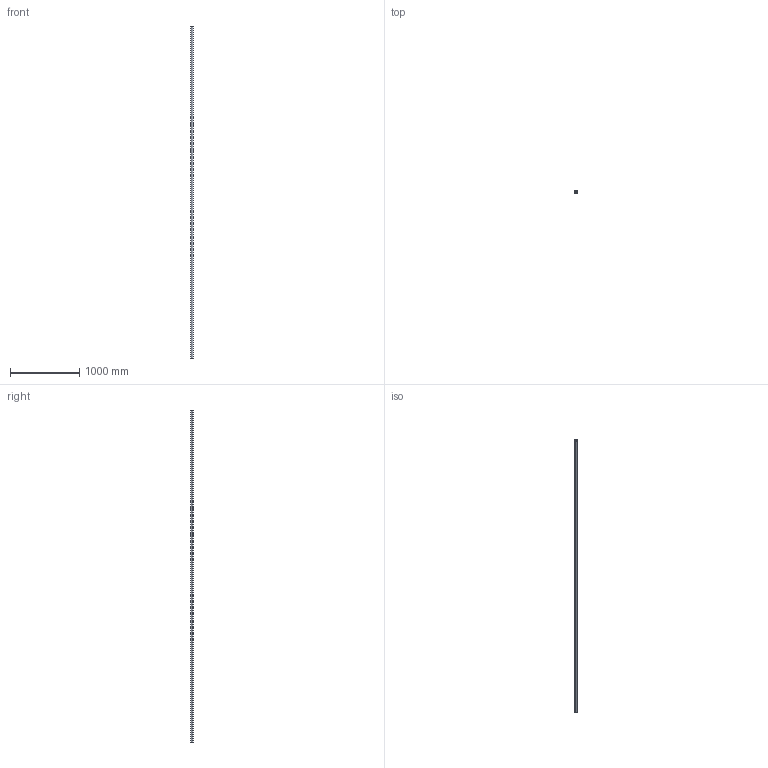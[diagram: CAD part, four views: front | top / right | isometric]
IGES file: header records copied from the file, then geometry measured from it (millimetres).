
Start section: SolidWorks IGES file using analytic representation for surfaces
Global section: file name: C:\Users\IanO\Desktop\L1771_v2\L1771.40_v2\L1771.40_v2_20230705_IGES\L1771.40-4800.igs; native system: SolidWorks 2019; preprocessor: SolidWorks 2019; author: IanO; date: 230705.162736; units: millimetre
Bounding box: 40 x 40 x 4800 mm (x, y, z)
Surface area: 1026697.6 mm2 (no closed solid volume)
Topology: 0 solids, 0 shells, 6 faces, 272 edges, 272 vertices
Faces by surface type: revolution 4, bspline 2
